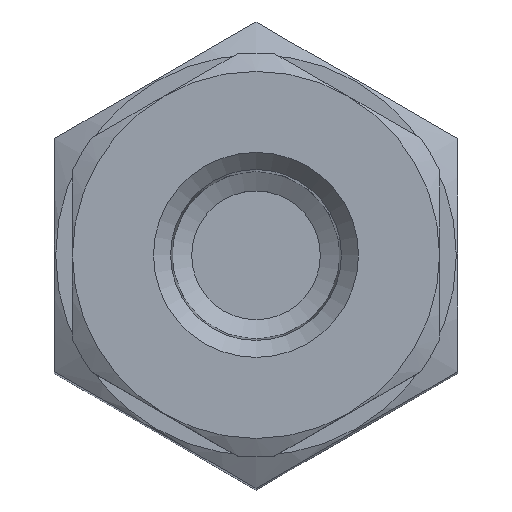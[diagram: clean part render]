
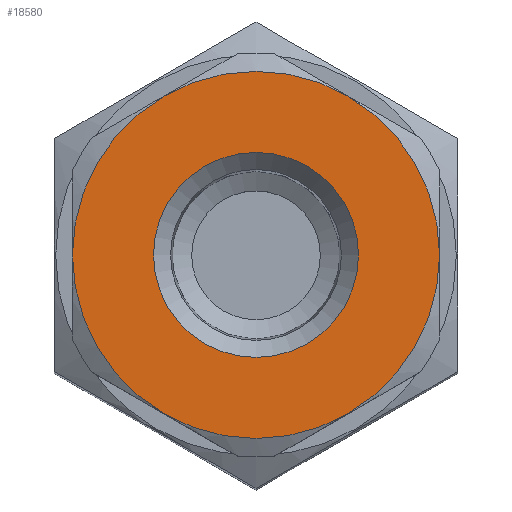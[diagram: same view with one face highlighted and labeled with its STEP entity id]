
A CAD part, top view. The second image highlights one B-rep face of the part: STEP entity #18580.
In plain terms, the highlighted planar face has unit normal (0, 0, 1).
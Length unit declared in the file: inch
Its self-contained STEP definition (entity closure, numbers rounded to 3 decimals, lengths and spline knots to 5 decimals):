
#121=CIRCLE('',#19227,0.349);
#122=CIRCLE('',#19228,0.349);
#144=CIRCLE('',#19263,0.625);
#145=CIRCLE('',#19265,0.625);
#147=CIRCLE('',#19268,0.625);
#149=CIRCLE('',#19271,0.625);
#150=CIRCLE('',#19273,0.625);
#152=CIRCLE('',#19276,0.625);
#253=FACE_BOUND('',#2758,.T.);
#802=PLANE('',#19283);
#1739=FACE_OUTER_BOUND('',#2757,.T.);
#2757=EDGE_LOOP('',(#16354,#16355,#16356,#16357,#16358,#16359));
#2758=EDGE_LOOP('',(#16360,#16361));
#8630=VERTEX_POINT('',#32100);
#8631=VERTEX_POINT('',#32102);
#8658=VERTEX_POINT('',#32171);
#8661=VERTEX_POINT('',#32185);
#8664=VERTEX_POINT('',#32199);
#8665=VERTEX_POINT('',#32207);
#8667=VERTEX_POINT('',#32216);
#8670=VERTEX_POINT('',#32228);
#11170=EDGE_CURVE('',#8631,#8630,#121,.T.);
#11171=EDGE_CURVE('',#8630,#8631,#122,.T.);
#11217=EDGE_CURVE('',#8665,#8658,#144,.T.);
#11218=EDGE_CURVE('',#8658,#8661,#145,.T.);
#11222=EDGE_CURVE('',#8667,#8665,#147,.T.);
#11226=EDGE_CURVE('',#8670,#8667,#149,.T.);
#11227=EDGE_CURVE('',#8661,#8664,#150,.T.);
#11230=EDGE_CURVE('',#8664,#8670,#152,.T.);
#16354=ORIENTED_EDGE('',*,*,#11218,.T.);
#16355=ORIENTED_EDGE('',*,*,#11227,.T.);
#16356=ORIENTED_EDGE('',*,*,#11230,.T.);
#16357=ORIENTED_EDGE('',*,*,#11226,.T.);
#16358=ORIENTED_EDGE('',*,*,#11222,.T.);
#16359=ORIENTED_EDGE('',*,*,#11217,.T.);
#16360=ORIENTED_EDGE('',*,*,#11170,.T.);
#16361=ORIENTED_EDGE('',*,*,#11171,.T.);
#18580=ADVANCED_FACE('',(#1739,#253),#802,.T.);
#19227=AXIS2_PLACEMENT_3D('',#32103,#22270,#22271);
#19228=AXIS2_PLACEMENT_3D('',#32104,#22272,#22273);
#19263=AXIS2_PLACEMENT_3D('',#32211,#22359,#22360);
#19265=AXIS2_PLACEMENT_3D('',#32213,#22363,#22364);
#19268=AXIS2_PLACEMENT_3D('',#32225,#22369,#22370);
#19271=AXIS2_PLACEMENT_3D('',#32237,#22375,#22376);
#19273=AXIS2_PLACEMENT_3D('',#32239,#22379,#22380);
#19276=AXIS2_PLACEMENT_3D('',#32246,#22385,#22386);
#19283=AXIS2_PLACEMENT_3D('',#32258,#22404,#22405);
#22270=DIRECTION('center_axis',(0.,0.,
-1.));
#22271=DIRECTION('ref_axis',(0.866,0.5,0.));
#22272=DIRECTION('center_axis',(0.,0.,
-1.));
#22273=DIRECTION('ref_axis',(0.866,0.5,0.));
#22359=DIRECTION('center_axis',(0.,0.,
1.));
#22360=DIRECTION('ref_axis',(0.866,0.5,0.));
#22363=DIRECTION('center_axis',(0.,0.,
1.));
#22364=DIRECTION('ref_axis',(0.866,0.5,0.));
#22369=DIRECTION('center_axis',(0.,0.,
1.));
#22370=DIRECTION('ref_axis',(0.866,0.5,0.));
#22375=DIRECTION('center_axis',(0.,0.,
1.));
#22376=DIRECTION('ref_axis',(0.866,0.5,0.));
#22379=DIRECTION('center_axis',(0.,0.,
1.));
#22380=DIRECTION('ref_axis',(0.866,0.5,0.));
#22385=DIRECTION('center_axis',(0.,0.,
1.));
#22386=DIRECTION('ref_axis',(0.866,0.5,0.));
#22404=DIRECTION('center_axis',(0.,0.,
1.));
#22405=DIRECTION('ref_axis',(0.5,-0.866,0.));
#32100=CARTESIAN_POINT('',(-0.73795,-0.13237,1.82279));
#32102=CARTESIAN_POINT('',(-0.13346,0.21663,1.82279));
#32103=CARTESIAN_POINT('Origin',(-0.43571,0.04213,
1.82279));
#32104=CARTESIAN_POINT('Origin',(-0.43571,0.04213,
1.82279));
#32171=CARTESIAN_POINT('',(-0.12321,-0.49914,1.82279));
#32185=CARTESIAN_POINT('',(0.18929,0.04213,1.82279));
#32199=CARTESIAN_POINT('',(-0.12321,0.58339,1.82279));
#32207=CARTESIAN_POINT('',(-0.74821,-0.49914,1.82279));
#32211=CARTESIAN_POINT('Origin',(-0.43571,0.04213,
1.82279));
#32213=CARTESIAN_POINT('Origin',(-0.43571,0.04213,
1.82279));
#32216=CARTESIAN_POINT('',(-1.06071,0.04213,1.82279));
#32225=CARTESIAN_POINT('Origin',(-0.43571,0.04213,
1.82279));
#32228=CARTESIAN_POINT('',(-0.74821,0.58339,1.82279));
#32237=CARTESIAN_POINT('Origin',(-0.43571,0.04213,
1.82279));
#32239=CARTESIAN_POINT('Origin',(-0.43571,0.04213,
1.82279));
#32246=CARTESIAN_POINT('Origin',(-0.43571,0.04213,
1.82279));
#32258=CARTESIAN_POINT('Origin',(-0.43571,0.04213,
1.82279));
